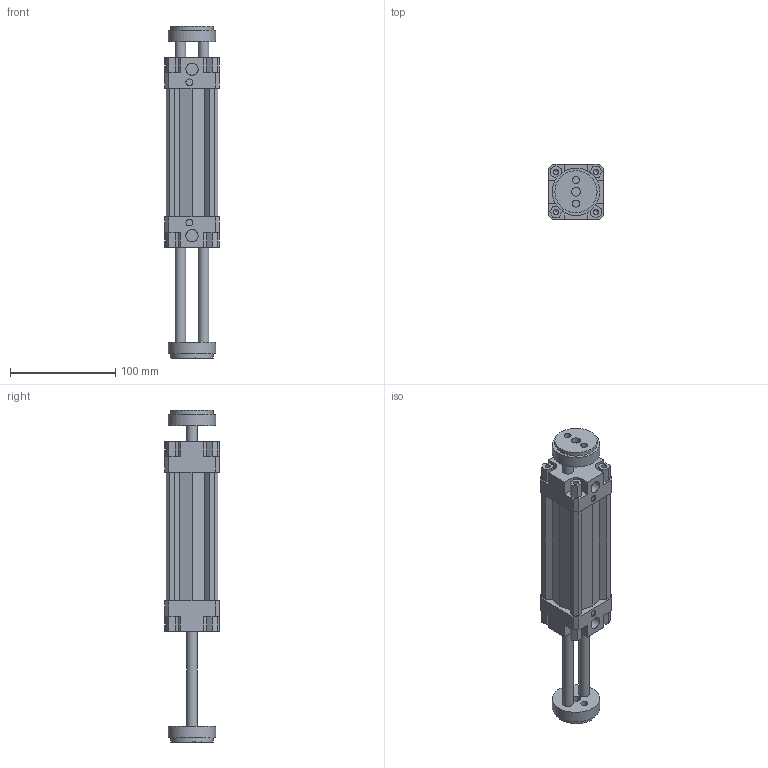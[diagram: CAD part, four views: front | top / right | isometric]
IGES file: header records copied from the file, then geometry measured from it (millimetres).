
Global section: file name: 132#_040_0075_06; native system: Autodesk Inventor 2014; preprocessor: unknown; author: A. Manieri; date: 20161006.154805; units: millimetre
Bounding box: 52 x 52 x 315 mm (x, y, z)
Volume: 351529.3 mm3; surface area: 106271.3 mm2
Topology: 2 solids, 2 shells, 190 faces, 518 edges, 354 vertices
Faces by surface type: bspline 190
